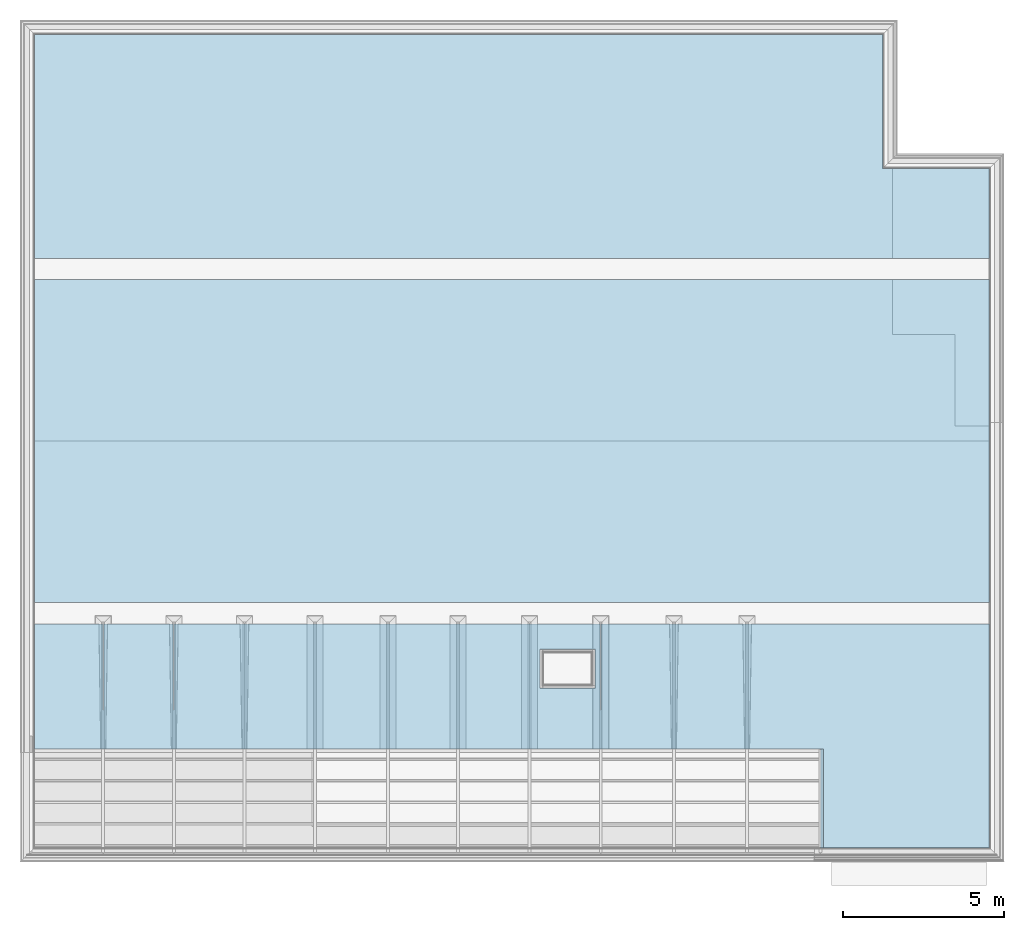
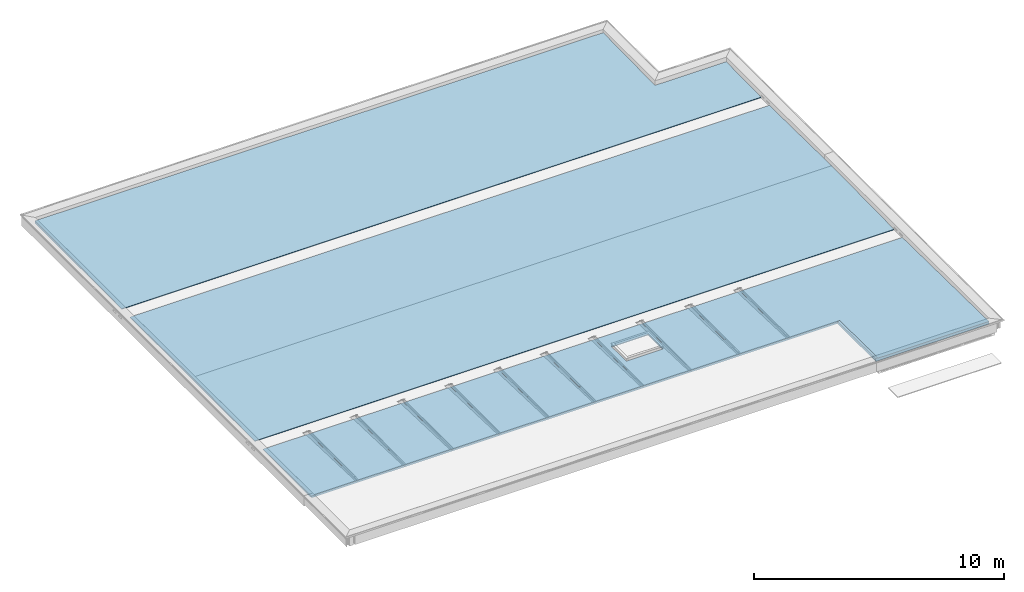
# One storey, part 9 of 16: 1 building element part, 1 element without a shape of its own.
"""IFC2X3 building model written with IfcOpenShell, lengths in millimetres."""

import ifcopenshell
import ifcopenshell.guid

model = None  # the IFC model being written
_history = None  # IfcOwnerHistory: only IFC2X3 demands one
_inside = {}  # id of a spatial element -> (the spatial element, [elements in it])
_under = {}  # id of a project, library or spatial element -> (it, [spatial elements below it])
_declared = {}  # id of a project -> (the project, [libraries it declares])
_typed = {}  # id of a type object -> (the type object, [elements of that type])
_made_of = {}  # id of a material, layer set ... -> (it, [elements and type objects made of it])


def new_model(schema):
    """Start an empty IFC model of exactly this schema.

    Asked for "IFC4X3", IfcOpenShell would pick the latest addendum, in which some entities
    have other attributes; the version numbers below select the first issue.
    IFC2X3 requires an IfcOwnerHistory on every rooted entity: one is made here for all.
    """
    global model, _history
    if schema == "IFC4X3":
        model = ifcopenshell.file(schema_version=(4, 3, 0, 0))
    else:
        model = ifcopenshell.file(schema=schema)
    _inside.clear()
    _under.clear()
    _declared.clear()
    _typed.clear()
    _made_of.clear()
    _history = None
    if model.schema == "IFC2X3":
        org = make("IfcOrganization", Name="unknown")
        user = make(
            "IfcPersonAndOrganization",
            ThePerson=make("IfcPerson", FamilyName="unknown"),
            TheOrganization=org,
        )
        app = make(
            "IfcApplication",
            ApplicationDeveloper=org,
            Version="unknown",
            ApplicationFullName="unknown",
            ApplicationIdentifier="unknown",
        )
        _history = make(
            "IfcOwnerHistory",
            OwningUser=user,
            OwningApplication=app,
            ChangeAction="ADDED",
            CreationDate=0,
        )
    return model


def make(cls, **values):
    """One entity of the class cls with the attributes given. An attribute that is None is left unset."""
    return model.create_entity(
        cls, **{name: value for name, value in values.items() if value is not None}
    )


def entity(cls, *values):
    """Any entity or typed value of the class cls, its attributes in the order of the schema. None: left unset."""
    e = model.create_entity(cls)
    for i, value in enumerate(values):
        if value is not None:
            e[i] = value
    return e


def rooted(cls, **values):
    """An entity with a GlobalId (a new one), such as an element, a storey or a relation."""
    return make(cls, GlobalId=ifcopenshell.guid.new(), OwnerHistory=_history, **values)


def si_unit(unit_type, name, prefix=None):
    """IfcSIUnit, for example si_unit("LENGTHUNIT", "METRE", prefix="MILLI")."""
    return make("IfcSIUnit", UnitType=unit_type, Prefix=prefix, Name=name)


def converted_unit(unit_type, name, factor, base, dimensions=None, offset=None):
    """IfcConversionBasedUnit, such as the inch: factor (a typed value) times the base unit."""
    return make(
        "IfcConversionBasedUnit"
        if offset is None
        else "IfcConversionBasedUnitWithOffset",
        ConversionOffset=offset,
        Dimensions=None
        if dimensions is None
        else entity("IfcDimensionalExponents", *dimensions),
        UnitType=unit_type,
        Name=name,
        ConversionFactor=make(
            "IfcMeasureWithUnit", ValueComponent=factor, UnitComponent=base
        ),
    )


def derived_unit(unit_type, elements):
    """IfcDerivedUnit: a product of units, each with its exponent."""
    return make(
        "IfcDerivedUnit",
        Elements=[
            make("IfcDerivedUnitElement", Unit=unit, Exponent=power)
            for unit, power in elements
        ],
        UnitType=unit_type,
    )


def money_unit(currency):
    """IfcMonetaryUnit."""
    return make("IfcMonetaryUnit", Currency=currency)


def assignment(units):
    """IfcUnitAssignment: the units of a project."""
    return None if units is None else make("IfcUnitAssignment", Units=units)


def point(xyz):
    """IfcCartesianPoint."""
    return None if xyz is None else make("IfcCartesianPoint", Coordinates=xyz)


def direction(xyz):
    """IfcDirection."""
    return None if xyz is None else make("IfcDirection", DirectionRatios=xyz)


def frame(location, z_axis=None, x_axis=None):
    """IfcAxis2Placement3D, a coordinate frame: its origin and axes. An axis left out is left unset."""
    return make(
        "IfcAxis2Placement3D",
        Location=point(location),
        Axis=direction(z_axis),
        RefDirection=direction(x_axis),
    )


def origin_with_axes():
    """The frame at (0, 0, 0) with the z axis (0, 0, 1) and the x axis (1, 0, 0) written out."""
    return frame((0.0, 0.0, 0.0), z_axis=(0.0, 0.0, 1.0), x_axis=(1.0, 0.0, 0.0))


def place(relative_to, where):
    """IfcLocalPlacement: puts the frame where relative to a parent placement (None: the world)."""
    return make(
        "IfcLocalPlacement", PlacementRelTo=relative_to, RelativePlacement=where
    )


def context(
    kind, dimensions, precision=None, world=None, true_north=None, identifier=None
):
    """IfcGeometricRepresentationContext, for example the 3D "Model" context."""
    return make(
        "IfcGeometricRepresentationContext",
        ContextIdentifier=identifier,
        ContextType=kind,
        CoordinateSpaceDimension=dimensions,
        Precision=precision,
        WorldCoordinateSystem=world,
        TrueNorth=true_north,
    )


def subcontext(parent, identifier, kind, view, scale=None):
    """IfcGeometricRepresentationSubContext, for example "Body" below "Model"."""
    return make(
        "IfcGeometricRepresentationSubContext",
        ContextIdentifier=identifier,
        ContextType=kind,
        ParentContext=parent,
        TargetScale=scale,
        TargetView=view,
    )


def project(units=None, contexts=None):
    """IfcProject with its units and contexts."""
    return rooted(
        "IfcProject",
        Name="project",
        RepresentationContexts=contexts,
        UnitsInContext=assignment(units),
    )


def spatial(cls, under=None, at=None, **own):
    """A site, building, storey or space (cls), placed at a placement, below another one or the project."""
    s = rooted(cls, ObjectPlacement=at, **own)
    if under is not None:
        _under.setdefault(under.id(), (under, []))[1].append(s)
    return s


def faces_of(points, faces, orient=None, outer=None):
    """IfcFace entities. A face is a list of loops; a loop is a list of indices into points, from 0.

    orient and outer hold one flag for each loop. By default every Orientation is true, the
    first loop of a face is its IfcFaceOuterBound and the others are IfcFaceBound.
    """
    made = []
    for i, loops in enumerate(faces):
        bounds = []
        for j, loop in enumerate(loops):
            is_outer = j == 0 if outer is None else outer[i][j]
            bounds.append(
                make(
                    "IfcFaceOuterBound" if is_outer else "IfcFaceBound",
                    Bound=make("IfcPolyLoop", Polygon=[points[k] for k in loop]),
                    Orientation=True if orient is None else orient[i][j],
                )
            )
        made.append(make("IfcFace", Bounds=bounds))
    return made


def faceted_brep(points, faces, orient=None, outer=None, voids=None):
    """IfcFacetedBrep: a solid bounded by flat faces; with voids (closed shells), ...WithVoids."""
    shared = [point(p) for p in points]
    hull = make("IfcClosedShell", CfsFaces=faces_of(shared, faces, orient, outer))
    if voids is None:
        return make("IfcFacetedBrep", Outer=hull)
    return make(
        "IfcFacetedBrepWithVoids",
        Outer=hull,
        Voids=[
            make(cls, CfsFaces=faces_of(shared, fs, o, b)) for cls, fs, o, b in voids
        ],
    )


def shape(context_of_items, identifier, shape_type, items):
    """IfcShapeRepresentation: the items that make up one representation, for example the "Body"."""
    return make(
        "IfcShapeRepresentation",
        ContextOfItems=context_of_items,
        RepresentationIdentifier=identifier,
        RepresentationType=shape_type,
        Items=items,
    )


def material(Name=None, Category=None):
    """IfcMaterial."""
    return make("IfcMaterial", Name=Name, Category=Category)


def made_of(thing, what):
    """Note that an element or type object is made of a material, layer set ...; save() writes the relation."""
    if what is not None:
        _made_of.setdefault(what.id(), (what, []))[1].append(thing)
    return thing


def type_object(cls, material=None, **own):
    """A type object (cls), such as IfcWallType, which elements share."""
    return made_of(rooted(cls, **own), material)


def element(
    cls,
    number,
    at=None,
    inside=None,
    cuts=None,
    type_object=None,
    material=None,
    context=None,
    identifier="Body",
    shape_type=None,
    held_by="IfcProductDefinitionShape",
    body=None,
    shapes=None,
    **own,
):
    """One element of the class cls, such as IfcWall. Its Tag is "e" and its number.

    at: its placement. inside: the storey or other place that contains it. cuts: it is an
    opening in that element (IfcRelVoidsElement). A single representation is given by context,
    identifier, shape_type and body (its items); several are given by shapes. held_by: the class
    of the entity that holds the representations. save() writes the other relations.
    """
    e = rooted(cls, Tag="e%d" % number, ObjectPlacement=at, **own)
    if body is not None:
        shapes = [shape(context, identifier, shape_type, body)]
    if shapes is not None:
        e.Representation = make(held_by, Representations=shapes)
    if inside is not None:
        _inside.setdefault(inside.id(), (inside, []))[1].append(e)
    if cuts is not None:
        rooted(
            "IfcRelVoidsElement", RelatingBuildingElement=cuts, RelatedOpeningElement=e
        )
    if type_object is not None:
        _typed.setdefault(type_object.id(), (type_object, []))[1].append(e)
    return made_of(e, material)


def aggregate(whole, parts):
    """IfcRelAggregates: a whole, such as a stair, and the parts it consists of."""
    return rooted("IfcRelAggregates", RelatingObject=whole, RelatedObjects=parts)


def save(model, path):
    """Write the relations noted so far, then the file.

    IfcRelAggregates (storeys below a building ...), IfcRelContainedInSpatialStructure (elements
    in a storey), IfcRelDefinesByType, IfcRelAssociatesMaterial and IfcRelDeclares: one each for
    every whole, place, type object, material and project.
    """
    for whole, parts in _under.values():
        aggregate(whole, parts)
    for where, things in _inside.values():
        rooted(
            "IfcRelContainedInSpatialStructure",
            RelatedElements=things,
            RelatingStructure=where,
        )
    for kind, things in _typed.values():
        rooted("IfcRelDefinesByType", RelatedObjects=things, RelatingType=kind)
    for what, things in _made_of.values():
        rooted("IfcRelAssociatesMaterial", RelatedObjects=things, RelatingMaterial=what)
    for by, libraries in _declared.values():
        rooted("IfcRelDeclares", RelatingContext=by, RelatedDefinitions=libraries)
    model.write(path)


model = new_model("IFC2X3")

# Units and contexts
model_context = context("Model", 3, precision=0.01, world=origin_with_axes(), true_north=direction((0.0, 1.0)))
body_context = subcontext(model_context, "Body", "Model", "MODEL_VIEW")
ifc_project = project(units=[si_unit("LENGTHUNIT", "METRE", prefix="MILLI"), si_unit("AREAUNIT", "SQUARE_METRE"), si_unit("VOLUMEUNIT", "CUBIC_METRE"), converted_unit("PLANEANGLEUNIT", "DEGREE", entity("IfcPlaneAngleMeasure", 0.0174532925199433), si_unit("PLANEANGLEUNIT", "RADIAN"), dimensions=[0, 0, 0, 0, 0, 0, 0]), money_unit("EUR"), converted_unit("TIMEUNIT", "Year", entity("IfcTimeMeasure", 31556926.0), si_unit("TIMEUNIT", "SECOND"), dimensions=[0, 0, 1, 0, 0, 0, 0]), si_unit("MASSUNIT", "GRAM", prefix="KILO"), si_unit("THERMODYNAMICTEMPERATUREUNIT", "DEGREE_CELSIUS"), si_unit("LUMINOUSINTENSITYUNIT", "LUMEN"), si_unit("ENERGYUNIT", "JOULE", prefix="MEGA"), derived_unit("THERMALCONDUCTANCEUNIT", [(si_unit("POWERUNIT", "WATT"), 1), (si_unit("LENGTHUNIT", "METRE"), -1), (si_unit("THERMODYNAMICTEMPERATUREUNIT", "KELVIN"), -1)]), derived_unit("SPECIFICHEATCAPACITYUNIT", [(si_unit("ENERGYUNIT", "JOULE"), 1), (si_unit("MASSUNIT", "GRAM", prefix="KILO"), -1), (si_unit("THERMODYNAMICTEMPERATUREUNIT", "KELVIN"), -1)]), derived_unit("MASSDENSITYUNIT", [(si_unit("MASSUNIT", "GRAM", prefix="KILO"), 1), (si_unit("VOLUMEUNIT", "CUBIC_METRE"), -1)])], contexts=[model_context])

# Site, building, storey
site_placement = place(None, origin_with_axes())
site = spatial("IfcSite", under=ifc_project, at=site_placement, Name="Site", CompositionType="ELEMENT")
building_placement = place(site_placement, origin_with_axes())
building = spatial("IfcBuilding", under=site, at=building_placement, Name="Naam gebouw", CompositionType="ELEMENT")
storey_placement = place(building_placement, frame((0.0, 0.0, 7820.0), z_axis=(0.0, 0.0, 1.0), x_axis=(1.0, 0.0, 0.0)))
storey = spatial("IfcBuildingStorey", under=building, at=storey_placement, Name="2e dakoverzicht", CompositionType="ELEMENT", Elevation=7820.0)

# Slab, building element part
slab_type = type_object("IfcSlabType", Name="27 Dak isolatie 350", PredefinedType="NOTDEFINED")
slab_placement = place(storey_placement, frame((154.9999999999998, 6779.999999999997, 0.0), z_axis=(0.0, 0.0, 1.0), x_axis=(1.0, 0.0, 0.0)))
slab = element("IfcSlab", 1, at=slab_placement, inside=storey, type_object=slab_type, Name="_Vloer-x", PredefinedType="NOTDEFINED")
ifc_material = material(Name="Isolatie - Kunststof zacht")
building_element_part_placement = place(slab_placement, origin_with_axes())
building_element_part = element("IfcBuildingElementPart", 2, at=building_element_part_placement, material=ifc_material, Name="Isolatie - Kunststof zacht", context=body_context, shape_type="Brep", body=[
    faceted_brep([(24344.99903579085, 100.0000108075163, 318.0000004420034), (24444.99903971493, 100.0000108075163, 318.0000004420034), (24444.99903971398, 100.0000542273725, 288.1996629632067), (24344.99903187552, 100.0000542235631, 288.1996629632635), (24444.99903971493, -2033.333293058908, 349.9999999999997), (24344.99903248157, 0.0, 319.5000006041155), (24344.99903999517, -2033.333293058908, 349.9999999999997), (24444.99903971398, -2966.006019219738, 349.9999999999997), (24444.99903971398, -2966.006019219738, 334.1897540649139), (29590.00000039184, -2966.00601828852, 334.1897540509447), (29590.00000039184, 3980.000055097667, 229.9996629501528), (22080.98250151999, 3980.00005533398, 229.999662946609), (22080.98250151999, 1846.644251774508, 262.0000000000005), (22123.83250152, 1846.644251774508, 262.0000000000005), (22123.83250152, 1313.310918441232, 269.9999999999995), (22032.83250152, 1313.310918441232, 269.9999999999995), (22032.83250152, 1846.644251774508, 262.0000000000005), (22075.68250152, 1846.644251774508, 262.0000000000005), (22075.68250152, 3980.000055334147, 229.9996629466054), (19814.31596304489, 3980.000055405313, 229.9996629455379), (19814.31596304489, 1846.644251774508, 262.0000000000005), (19857.1659630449, 1846.644251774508, 262.0000000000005), (19857.1659630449, 1313.310918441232, 269.9999999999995), (19766.1659630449, 1313.310918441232, 269.9999999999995), (19766.1659630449, 1846.644251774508, 262.0000000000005), (19809.01596304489, 1846.644251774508, 262.0000000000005), (19809.01596304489, 3980.00005540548, 229.9996629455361), (17547.6494245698, 3980.000055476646, 229.9996629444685), (17547.6494245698, 1846.644251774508, 262.0000000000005), (17590.4994245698, 1846.644251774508, 262.0000000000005), (17590.4994245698, 1313.310918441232, 269.9999999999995), (17499.4994245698, 1313.310918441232, 269.9999999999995), (17499.4994245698, 1846.644251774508, 262.0000000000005), (17542.3494245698, 1846.644251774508, 262.0000000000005), (17542.3494245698, 3980.000055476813, 229.9996629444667), (15335.14956842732, 3980.000055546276, 229.999662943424), (15335.14956842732, 1846.644251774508, 262.0000000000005), (15377.99956842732, 1846.644251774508, 262.0000000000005), (15377.99956842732, 1313.310918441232, 269.9999999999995), (15286.99956842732, 1313.310918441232, 269.9999999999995), (15286.99956842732, 1846.644251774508, 262.0000000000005), (15329.84956842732, 1846.644251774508, 262.0000000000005), (15329.84956842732, 3980.000055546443, 229.9996629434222), (13122.64971228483, 3980.000055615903, 229.9996629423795), (13122.64971228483, 1846.644251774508, 262.0000000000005), (13165.49971228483, 1846.644251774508, 262.0000000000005), (13165.49971228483, 1313.310918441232, 269.9999999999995), (13074.49971228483, 1313.310918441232, 269.9999999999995), (13074.49971228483, 1846.644251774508, 262.0000000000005), (13117.34971228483, 1846.644251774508, 262.0000000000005), (13117.34971228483, 3980.00005561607, 229.9996629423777), (10955.64985614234, 3980.000055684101, 229.9996629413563), (10955.64985614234, 1846.644251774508, 262.0000000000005), (10998.49985614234, 1846.644251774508, 262.0000000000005), (10998.49985614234, 1313.310918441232, 269.9999999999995), (10907.49985614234, 1313.310918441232, 269.9999999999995), (10907.49985614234, 1846.644251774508, 262.0000000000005), (10950.34985614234, 1846.644251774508, 262.0000000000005), (10950.34985614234, 3980.000055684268, 229.9996629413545), (8697.650000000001, 3980.000055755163, 229.9996629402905), (8697.650000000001, 1846.644251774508, 262.0000000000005), (8740.500000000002, 1846.644251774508, 262.0000000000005), (8740.500000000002, 1313.310918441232, 269.9999999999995), (8649.500000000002, 1313.310918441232, 269.9999999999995), (8649.500000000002, 1846.644251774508, 262.0000000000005), (8692.350000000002, 1846.644251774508, 262.0000000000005), (8692.350000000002, 3980.00005575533, 229.9996629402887), (6510.149999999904, 3980.000055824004, 229.9996629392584), (6510.149999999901, 1846.644251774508, 262.0000000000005), (6552.999999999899, 1846.644251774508, 262.0000000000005), (6552.999999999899, 1313.310918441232, 269.9999999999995), (6461.999999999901, 1313.310918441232, 269.9999999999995), (6461.999999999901, 1846.644251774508, 262.0000000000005), (6504.849999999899, 1846.644251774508, 262.0000000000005), (6504.849999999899, 3980.00005582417, 229.9996629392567), (4322.650000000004, 3980.000055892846, 229.9996629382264), (4322.650000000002, 1846.644251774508, 262.0000000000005), (4365.500000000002, 1846.644251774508, 262.0000000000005), (4365.500000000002, 1313.310918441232, 269.9999999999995), (4274.500000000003, 1313.310918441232, 269.9999999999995), (4274.500000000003, 1846.644251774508, 262.0000000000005), (4317.350000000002, 1846.644251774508, 262.0000000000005), (4317.350000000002, 3980.000055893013, 229.9996629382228), (2135.149999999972, 3980.000055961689, 229.9996629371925), (2135.149999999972, 1846.644251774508, 262.0000000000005), (2177.999999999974, 1846.644251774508, 262.0000000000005), (2177.999999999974, 1313.310918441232, 269.9999999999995), (2086.999999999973, 1313.310918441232, 269.9999999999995), (2086.999999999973, 1846.644251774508, 262.0000000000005), (2129.849999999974, 1846.644251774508, 262.0000000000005), (2129.849999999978, 3980.000055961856, 229.9996629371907), (-3.904685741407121e-07, 3980.000056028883, 229.9996629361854), (-3.904685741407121e-07, 100.0000532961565, 288.1996629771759), (15669.99904027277, 1989.999976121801, 259.8496641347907), (15669.99904027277, 3190.00000704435, 241.8496636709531), (17369.99904045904, 3190.00000704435, 241.8496636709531), (17369.99904045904, 1989.999976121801, 259.8496641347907), (24344.99902028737, 100.0000000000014, 199.9999999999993), (24344.99902028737, 89.99999999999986, 199.9999999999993), (24344.99902028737, 89.99999999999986, 269.9999999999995), (24344.99902028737, 0.0, 269.9999999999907), (24344.99903999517, -2966.000000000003, 269.9999999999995), (24344.99903999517, -2966.000000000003, 349.9999999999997), (24390.49903999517, -2966.000000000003, 269.9999999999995), (24390.49903999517, -2966.000000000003, 262.0000000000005), (24347.64903999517, -2966.000000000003, 262.0000000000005), (24347.64903999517, -2966.000000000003, 199.9999999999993), (29589.99999999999, -2966.000000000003, 199.9999999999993), (29589.99999999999, 3980.000055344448, 199.9996625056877), (22080.98250151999, 3980.000055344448, 199.9996625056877), (22080.98250151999, 100.0000000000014, 262.0000000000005), (22080.98250151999, 100.0000000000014, 199.9999999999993), (22123.83250152, 100.0000000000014, 262.0000000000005), (22123.83250152, 100.0000000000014, 269.9999999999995), (22032.83250152, 100.0000000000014, 269.9999999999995), (22032.83250152, 100.0000000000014, 262.0000000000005), (22075.68250152, 100.0000000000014, 262.0000000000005), (22075.68250152, 3980.000055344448, 199.9996625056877), (22075.68250152, 100.0000000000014, 199.9999999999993), (19814.31596304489, 3980.000055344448, 199.9996625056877), (19814.31596304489, 100.0000000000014, 262.0000000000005), (19814.31596304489, 100.0000000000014, 199.9999999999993), (19857.1659630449, 100.0000000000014, 262.0000000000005), (19857.1659630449, 100.0000000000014, 269.9999999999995), (19766.1659630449, 100.0000000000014, 269.9999999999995), (19766.1659630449, 100.0000000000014, 262.0000000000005), (19809.01596304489, 100.0000000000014, 262.0000000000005), (19809.01596304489, 3980.000055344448, 199.9996625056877), (19809.01596304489, 100.0000000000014, 199.9999999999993), (17547.6494245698, 3980.000055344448, 199.9996625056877), (17547.6494245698, 100.0000000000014, 262.0000000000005), (17547.6494245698, 100.0000000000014, 199.9999999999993), (17590.4994245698, 100.0000000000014, 262.0000000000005), (17590.4994245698, 100.0000000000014, 269.9999999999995), (17499.4994245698, 100.0000000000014, 269.9999999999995), (17499.4994245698, 100.0000000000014, 262.0000000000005), (17542.3494245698, 100.0000000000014, 262.0000000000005), (17542.3494245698, 3980.000055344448, 199.9996625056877), (17542.3494245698, 100.0000000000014, 199.9999999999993), (15335.14956842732, 3980.000055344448, 199.9996625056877), (15335.14956842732, 100.0000000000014, 262.0000000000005), (15335.14956842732, 100.0000000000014, 199.9999999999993), (15377.99956842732, 100.0000000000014, 262.0000000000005), (15377.99956842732, 100.0000000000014, 269.9999999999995), (15286.99956842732, 100.0000000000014, 269.9999999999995), (15286.99956842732, 100.0000000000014, 262.0000000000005), (15329.84956842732, 100.0000000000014, 262.0000000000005), (15329.84956842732, 3980.000055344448, 199.9996625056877), (15329.84956842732, 100.0000000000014, 199.9999999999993), (13122.64971228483, 3980.000055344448, 199.9996625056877), (13122.64971228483, 100.0000000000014, 262.0000000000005), (13122.64971228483, 100.0000000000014, 199.9999999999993), (13165.49971228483, 100.0000000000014, 262.0000000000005), (13165.49971228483, 100.0000000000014, 269.9999999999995), (13074.49971228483, 100.0000000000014, 269.9999999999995), (13074.49971228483, 100.0000000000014, 262.0000000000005), (13117.34971228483, 100.0000000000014, 262.0000000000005), (13117.34971228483, 3980.000055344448, 199.9996625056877), (13117.34971228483, 100.0000000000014, 199.9999999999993), (10955.64985614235, 3980.000055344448, 199.9996625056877), (10955.64985614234, 100.0000000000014, 262.0000000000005), (10955.64985614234, 100.0000000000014, 199.9999999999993), (10998.49985614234, 100.0000000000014, 262.0000000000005), (10998.49985614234, 100.0000000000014, 269.9999999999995), (10907.49985614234, 100.0000000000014, 269.9999999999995), (10907.49985614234, 100.0000000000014, 262.0000000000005), (10950.34985614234, 100.0000000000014, 262.0000000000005), (10950.34985614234, 3980.000055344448, 199.9996625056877), (10950.34985614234, 100.0000000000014, 199.9999999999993), (8697.650000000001, 3980.000055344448, 199.9996625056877), (8697.650000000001, 100.0000000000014, 262.0000000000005), (8697.650000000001, 100.0000000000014, 199.9999999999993), (8740.500000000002, 100.0000000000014, 262.0000000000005), (8740.500000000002, 100.0000000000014, 269.9999999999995), (8649.500000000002, 100.0000000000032, 269.9999999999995), (8649.500000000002, 100.0000000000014, 262.0000000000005), (8692.350000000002, 100.0000000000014, 262.0000000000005), (8692.350000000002, 3980.000055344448, 199.9996625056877), (8692.350000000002, 100.0000000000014, 199.9999999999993), (6510.149999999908, 3980.000055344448, 199.9996625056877), (6510.149999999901, 100.0000000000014, 262.0000000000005), (6510.149999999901, 100.0000000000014, 199.9999999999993), (6552.999999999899, 100.0000000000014, 262.0000000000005), (6552.999999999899, 100.0000000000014, 269.9999999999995), (6461.999999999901, 100.0000000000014, 269.9999999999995), (6461.999999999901, 100.0000000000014, 262.0000000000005), (6504.849999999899, 100.0000000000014, 262.0000000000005), (6504.849999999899, 3980.000055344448, 199.9996625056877), (6504.8499999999, 100.0000000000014, 199.9999999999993), (4322.650000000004, 3980.000055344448, 199.9996625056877), (4322.650000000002, 100.0000000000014, 262.0000000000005), (4322.650000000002, 100.0000000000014, 199.9999999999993), (4365.500000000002, 100.0000000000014, 262.0000000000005), (4365.500000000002, 100.0000000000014, 269.9999999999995), (4274.500000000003, 100.0000000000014, 269.9999999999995), (4274.500000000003, 100.0000000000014, 262.0000000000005), (4317.350000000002, 100.0000000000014, 262.0000000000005), (4317.350000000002, 3980.000055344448, 199.9996625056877), (4317.350000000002, 100.0000000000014, 199.9999999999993), (2135.149999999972, 3980.000055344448, 199.9996625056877), (2135.149999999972, 100.0000000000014, 262.0000000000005), (2135.149999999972, 100.0000000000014, 199.9999999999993), (2177.999999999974, 100.0000000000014, 262.0000000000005), (2177.999999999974, 100.0000000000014, 269.9999999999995), (2086.999999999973, 100.0000000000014, 269.9999999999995), (2086.999999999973, 100.0000000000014, 262.0000000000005), (2129.849999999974, 100.0000000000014, 262.0000000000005), (2129.849999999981, 3980.000055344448, 199.9996625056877), (2129.849999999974, 100.0000000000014, 199.9999999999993), (0.0, 3980.000055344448, 199.9996625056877), (0.0, 100.0000000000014, 287.9999999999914), (0.0, 100.0000000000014, 199.9999999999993), (15669.99903999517, 3190.000318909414, 199.9999999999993), (15669.99903999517, 1990.000318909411, 199.9999999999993), (17369.99903999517, 3190.000318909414, 199.9999999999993), (17369.99903999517, 1990.000318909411, 199.9999999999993), (24347.64903999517, 89.99999999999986, 199.9999999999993), (24347.64903999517, 89.99999999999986, 262.0000000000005), (24390.49903999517, 89.99999999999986, 262.0000000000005), (24390.49903999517, 89.99999999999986, 269.9999999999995)], [[[0, 1, 2, 3]], [[4, 1, 0, 5, 6]], [[1, 4, 7, 8, 2]], [[8, 9, 10, 11, 12, 13, 14, 15, 16, 17, 18, 19, 20, 21, 22, 23, 24, 25, 26, 27, 28, 29, 30, 31, 32, 33, 34, 35, 36, 37, 38, 39, 40, 41, 42, 43, 44, 45, 46, 47, 48, 49, 50, 51, 52, 53, 54, 55, 56, 57, 58, 59, 60, 61, 62, 63, 64, 65, 66, 67, 68, 69, 70, 71, 72, 73, 74, 75, 76, 77, 78, 79, 80, 81, 82, 83, 84, 85, 86, 87, 88, 89, 90, 91, 92, 3, 2], [93, 94, 95, 96]], [[5, 0, 3, 97, 98, 99, 100]], [[6, 5, 100, 101, 102]], [[4, 6, 102, 7]], [[9, 8, 7, 102, 101, 103, 104, 105, 106, 107]], [[108, 10, 9, 107]], [[109, 11, 10, 108]], [[110, 12, 11, 109, 111]], [[112, 13, 12, 110]], [[113, 14, 13, 112]], [[114, 15, 14, 113]], [[115, 16, 15, 114]], [[116, 17, 16, 115]], [[117, 18, 17, 116, 118]], [[119, 19, 18, 117]], [[120, 20, 19, 119, 121]], [[122, 21, 20, 120]], [[123, 22, 21, 122]], [[124, 23, 22, 123]], [[125, 24, 23, 124]], [[126, 25, 24, 125]], [[127, 26, 25, 126, 128]], [[129, 27, 26, 127]], [[130, 28, 27, 129, 131]], [[132, 29, 28, 130]], [[133, 30, 29, 132]], [[134, 31, 30, 133]], [[135, 32, 31, 134]], [[136, 33, 32, 135]], [[137, 34, 33, 136, 138]], [[139, 35, 34, 137]], [[140, 36, 35, 139, 141]], [[142, 37, 36, 140]], [[143, 38, 37, 142]], [[144, 39, 38, 143]], [[145, 40, 39, 144]], [[146, 41, 40, 145]], [[147, 42, 41, 146, 148]], [[149, 43, 42, 147]], [[150, 44, 43, 149, 151]], [[152, 45, 44, 150]], [[153, 46, 45, 152]], [[154, 47, 46, 153]], [[155, 48, 47, 154]], [[156, 49, 48, 155]], [[157, 50, 49, 156, 158]], [[159, 51, 50, 157]], [[160, 52, 51, 159, 161]], [[162, 53, 52, 160]], [[163, 54, 53, 162]], [[164, 55, 54, 163]], [[165, 56, 55, 164]], [[166, 57, 56, 165]], [[167, 58, 57, 166, 168]], [[169, 59, 58, 167]], [[170, 60, 59, 169, 171]], [[172, 61, 60, 170]], [[173, 62, 61, 172]], [[174, 63, 62, 173]], [[175, 64, 63, 174]], [[176, 65, 64, 175]], [[177, 66, 65, 176, 178]], [[179, 67, 66, 177]], [[180, 68, 67, 179, 181]], [[182, 69, 68, 180]], [[183, 70, 69, 182]], [[184, 71, 70, 183]], [[185, 72, 71, 184]], [[186, 73, 72, 185]], [[187, 74, 73, 186, 188]], [[189, 75, 74, 187]], [[190, 76, 75, 189, 191]], [[192, 77, 76, 190]], [[193, 78, 77, 192]], [[194, 79, 78, 193]], [[195, 80, 79, 194]], [[196, 81, 80, 195]], [[197, 82, 81, 196, 198]], [[199, 83, 82, 197]], [[200, 84, 83, 199, 201]], [[202, 85, 84, 200]], [[203, 86, 85, 202]], [[204, 87, 86, 203]], [[205, 88, 87, 204]], [[206, 89, 88, 205]], [[207, 90, 89, 206, 208]], [[209, 91, 90, 207]], [[210, 92, 91, 209, 211]], [[97, 3, 92, 210, 211, 208, 206, 205, 204, 203, 202, 200, 201, 198, 196, 195, 194, 193, 192, 190, 191, 188, 186, 185, 184, 183, 182, 180, 181, 178, 176, 175, 174, 173, 172, 170, 171, 168, 166, 165, 164, 163, 162, 160, 161, 158, 156, 155, 154, 153, 152, 150, 151, 148, 146, 145, 144, 143, 142, 140, 141, 138, 136, 135, 134, 133, 132, 130, 131, 128, 126, 125, 124, 123, 122, 120, 121, 118, 116, 115, 114, 113, 112, 110, 111]], [[212, 94, 93, 213]], [[214, 95, 94, 212]], [[215, 96, 95, 214]], [[213, 93, 96, 215]], [[97, 111, 109, 108, 107, 106, 216, 98]], [[98, 216, 217, 218, 219, 99]], [[100, 99, 219, 103, 101]], [[219, 218, 104, 103]], [[218, 217, 105, 104]], [[105, 217, 216, 106]], [[118, 121, 119, 117]], [[128, 131, 129, 127]], [[138, 141, 139, 137], [213, 215, 214, 212]], [[148, 151, 149, 147]], [[158, 161, 159, 157]], [[168, 171, 169, 167]], [[178, 181, 179, 177]], [[188, 191, 189, 187]], [[198, 201, 199, 197]], [[208, 211, 209, 207]]]),
    faceted_brep([(26290.00000000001, 18089.97621406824, 271.8493053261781), (29589.99999999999, 18089.97621406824, 271.8493053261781), (29589.99999999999, 18089.97621406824, 199.9999999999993), (26290.00000000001, 18089.97621406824, 199.9999999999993), (29589.99999999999, 15300.00005495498, 229.9996629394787), (26290.00000000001, 22240.00005557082, 334.0996629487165), (0.0, 22240.00005557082, 334.0996629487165), (0.0, 15300.00005495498, 229.9996629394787), (29589.99999999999, 15300.00005534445, 199.9996625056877), (0.0, 15300.00005534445, 199.9996625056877), (0.0, 22240.0, 199.9999999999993), (26290.00000000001, 22240.0, 199.9999999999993)], [[[0, 1, 2, 3]], [[4, 1, 0, 5, 6, 7]], [[1, 4, 8, 2]], [[2, 8, 9, 10, 11, 3]], [[5, 0, 3, 11]], [[6, 5, 11, 10]], [[7, 6, 10, 9]], [[4, 7, 9, 8]]]),
    faceted_brep([(29589.99999999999, 14640.00005534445, 199.9996625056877), (29589.99999999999, 14640.00005534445, 229.9996629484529), (29589.99999999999, 9640.000054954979, 304.9996629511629), (29589.99999999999, 4640.000055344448, 229.9996629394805), (29589.99999999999, 4640.000055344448, 199.9996625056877), (0.0, 14640.00005534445, 229.9996629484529), (0.0, 14640.00005534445, 199.9996625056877), (0.0, 9640.000054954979, 304.9996629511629), (0.0, 4640.000055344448, 229.9996629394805), (0.0, 4640.000055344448, 199.9996625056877)], [[[0, 1, 2, 3, 4]], [[5, 1, 0, 6]], [[1, 5, 7, 2]], [[3, 2, 7, 8]], [[8, 9, 4, 3]], [[6, 0, 4, 9]], [[5, 6, 9, 8, 7]]]),
])
aggregate(slab, [building_element_part])

save(model, "model.ifc")
